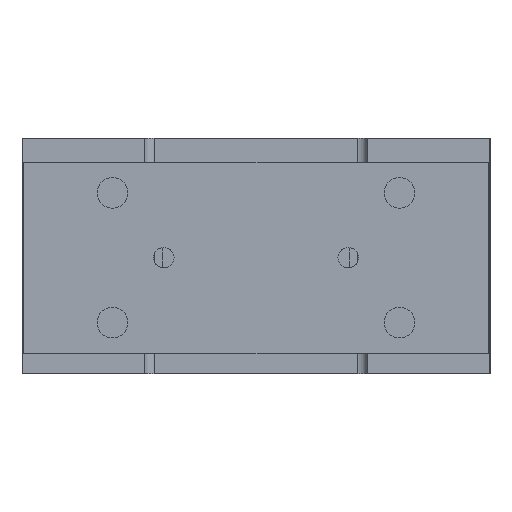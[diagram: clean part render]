
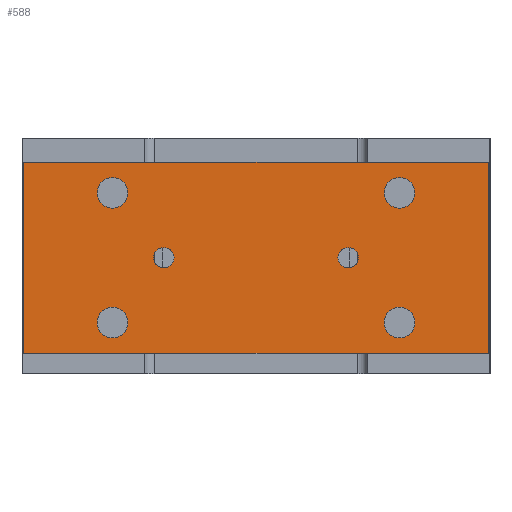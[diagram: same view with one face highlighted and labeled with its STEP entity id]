
A CAD part, left-side view. The second image highlights one B-rep face of the part: STEP entity #588.
In plain terms, the highlighted planar face has unit normal (-1, 0, 0).
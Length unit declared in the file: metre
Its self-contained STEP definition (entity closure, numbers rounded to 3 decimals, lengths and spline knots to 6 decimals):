
#588 = ADVANCED_FACE( '', ( #1347, #1348, #1349, #1350, #1351, #1352, #1353 ), #1354, .T. );
#1347 = FACE_BOUND( '', #2203, .T. );
#1348 = FACE_BOUND( '', #2204, .T. );
#1349 = FACE_BOUND( '', #2205, .T. );
#1350 = FACE_BOUND( '', #2206, .T. );
#1351 = FACE_BOUND( '', #2207, .T. );
#1352 = FACE_BOUND( '', #2208, .T. );
#1353 = FACE_OUTER_BOUND( '', #2209, .T. );
#1354 = PLANE( '', #2210 );
#2203 = EDGE_LOOP( '', ( #3631 ) );
#2204 = EDGE_LOOP( '', ( #3632 ) );
#2205 = EDGE_LOOP( '', ( #3633 ) );
#2206 = EDGE_LOOP( '', ( #3634 ) );
#2207 = EDGE_LOOP( '', ( #3635 ) );
#2208 = EDGE_LOOP( '', ( #3636 ) );
#2209 = EDGE_LOOP( '', ( #3637, #3638, #3639, #3640 ) );
#2210 = AXIS2_PLACEMENT_3D( '', #3641, #3642, #3643 );
#3631 = ORIENTED_EDGE( '', *, *, #4398, .F. );
#3632 = ORIENTED_EDGE( '', *, *, #4554, .F. );
#3633 = ORIENTED_EDGE( '', *, *, #4555, .F. );
#3634 = ORIENTED_EDGE( '', *, *, #4522, .F. );
#3635 = ORIENTED_EDGE( '', *, *, #4513, .F. );
#3636 = ORIENTED_EDGE( '', *, *, #4102, .T. );
#3637 = ORIENTED_EDGE( '', *, *, #4322, .T. );
#3638 = ORIENTED_EDGE( '', *, *, #4394, .T. );
#3639 = ORIENTED_EDGE( '', *, *, #4556, .T. );
#3640 = ORIENTED_EDGE( '', *, *, #4557, .T. );
#3641 = CARTESIAN_POINT( '', ( -0.1025, -0.068, -0.007 ) );
#3642 = DIRECTION( '', ( -1., 0., 0. ) );
#3643 = DIRECTION( '', ( 0., 0., 1. ) );
#4102 = EDGE_CURVE( '', #4734, #4734, #4735, .T. );
#4322 = EDGE_CURVE( '', #5086, #5084, #5087, .T. );
#4394 = EDGE_CURVE( '', #5084, #5196, #5198, .T. );
#4398 = EDGE_CURVE( '', #5202, #5202, #5203, .T. );
#4513 = EDGE_CURVE( '', #5367, #5367, #5368, .T. );
#4522 = EDGE_CURVE( '', #5379, #5379, #5380, .T. );
#4554 = EDGE_CURVE( '', #5416, #5416, #5417, .T. );
#4555 = EDGE_CURVE( '', #5418, #5418, #5419, .T. );
#4556 = EDGE_CURVE( '', #5196, #5420, #5421, .T. );
#4557 = EDGE_CURVE( '', #5420, #5086, #5422, .T. );
#4734 = VERTEX_POINT( '', #5667 );
#4735 = CIRCLE( '', #5668, 0.003 );
#5084 = VERTEX_POINT( '', #6256 );
#5086 = VERTEX_POINT( '', #6259 );
#5087 = LINE( '', #6260, #6261 );
#5196 = VERTEX_POINT( '', #6466 );
#5198 = LINE( '', #6469, #6470 );
#5202 = VERTEX_POINT( '', #6475 );
#5203 = CIRCLE( '', #6476, 0.0045 );
#5367 = VERTEX_POINT( '', #6679 );
#5368 = CIRCLE( '', #6680, 0.003 );
#5379 = VERTEX_POINT( '', #6692 );
#5380 = CIRCLE( '', #6693, 0.0045 );
#5416 = VERTEX_POINT( '', #6739 );
#5417 = CIRCLE( '', #6740, 0.0045 );
#5418 = VERTEX_POINT( '', #6741 );
#5419 = CIRCLE( '', #6742, 0.0045 );
#5420 = VERTEX_POINT( '', #6743 );
#5421 = LINE( '', #6744, #6745 );
#5422 = LINE( '', #6746, #6747 );
#5667 = CARTESIAN_POINT( '', ( -0.1025, 0.024, -0.035 ) );
#5668 = AXIS2_PLACEMENT_3D( '', #6919, #6920, #6921 );
#6256 = CARTESIAN_POINT( '', ( -0.1025, -0.068, -0.007 ) );
#6259 = CARTESIAN_POINT( '', ( -0.1025, -0.068, -0.063 ) );
#6260 = CARTESIAN_POINT( '', ( -0.1025, -0.068, -0.063 ) );
#6261 = VECTOR( '', #7213, 1. );
#6466 = CARTESIAN_POINT( '', ( -0.1025, 0.068, -0.007 ) );
#6469 = CARTESIAN_POINT( '', ( -0.1025, -0.068, -0.007 ) );
#6470 = VECTOR( '', #7293, 1. );
#6475 = CARTESIAN_POINT( '', ( -0.1025, -0.0465, -0.054 ) );
#6476 = AXIS2_PLACEMENT_3D( '', #7295, #7296, #7297 );
#6679 = CARTESIAN_POINT( '', ( -0.1025, -0.024, -0.035 ) );
#6680 = AXIS2_PLACEMENT_3D( '', #7433, #7434, #7435 );
#6692 = CARTESIAN_POINT( '', ( -0.1025, 0.0375, -0.016 ) );
#6693 = AXIS2_PLACEMENT_3D( '', #7443, #7444, #7445 );
#6739 = CARTESIAN_POINT( '', ( -0.1025, 0.0375, -0.054 ) );
#6740 = AXIS2_PLACEMENT_3D( '', #7465, #7466, #7467 );
#6741 = CARTESIAN_POINT( '', ( -0.1025, -0.0465, -0.016 ) );
#6742 = AXIS2_PLACEMENT_3D( '', #7468, #7469, #7470 );
#6743 = CARTESIAN_POINT( '', ( -0.1025, 0.068, -0.063 ) );
#6744 = CARTESIAN_POINT( '', ( -0.1025, 0.068, -0.007 ) );
#6745 = VECTOR( '', #7471, 1. );
#6746 = CARTESIAN_POINT( '', ( -0.1025, 0.068, -0.063 ) );
#6747 = VECTOR( '', #7472, 1. );
#6919 = CARTESIAN_POINT( '', ( -0.1025, 0.027, -0.035 ) );
#6920 = DIRECTION( '', ( 1., 0., 0. ) );
#6921 = DIRECTION( '', ( 0., -1., 0. ) );
#7213 = DIRECTION( '', ( 0., 0., 1. ) );
#7293 = DIRECTION( '', ( 0., 1., 0. ) );
#7295 = CARTESIAN_POINT( '', ( -0.1025, -0.042, -0.054 ) );
#7296 = DIRECTION( '', ( -1., 0., 0. ) );
#7297 = DIRECTION( '', ( 0., -1., 0. ) );
#7433 = CARTESIAN_POINT( '', ( -0.1025, -0.027, -0.035 ) );
#7434 = DIRECTION( '', ( -1., 0., 0. ) );
#7435 = DIRECTION( '', ( 0., 1., 0. ) );
#7443 = CARTESIAN_POINT( '', ( -0.1025, 0.042, -0.016 ) );
#7444 = DIRECTION( '', ( -1., 0., 0. ) );
#7445 = DIRECTION( '', ( 0., -1., 0. ) );
#7465 = CARTESIAN_POINT( '', ( -0.1025, 0.042, -0.054 ) );
#7466 = DIRECTION( '', ( -1., 0., 0. ) );
#7467 = DIRECTION( '', ( 0., -1., 0. ) );
#7468 = CARTESIAN_POINT( '', ( -0.1025, -0.042, -0.016 ) );
#7469 = DIRECTION( '', ( -1., 0., 0. ) );
#7470 = DIRECTION( '', ( 0., -1., 0. ) );
#7471 = DIRECTION( '', ( 0., 0., -1. ) );
#7472 = DIRECTION( '', ( 0., -1., 0. ) );
